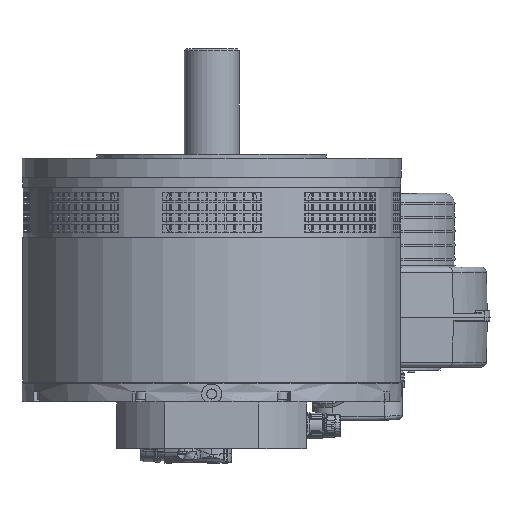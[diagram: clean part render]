
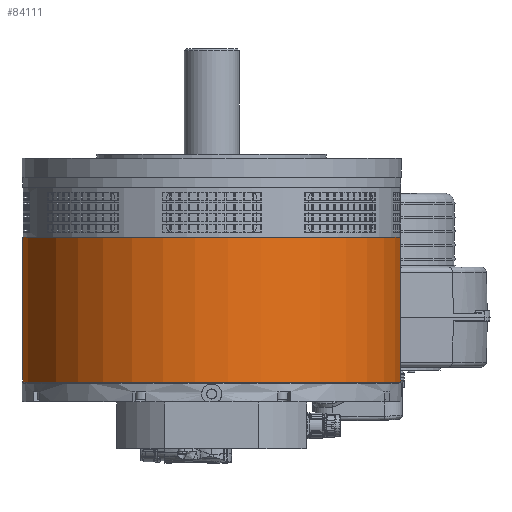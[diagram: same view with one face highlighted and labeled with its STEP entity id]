
A CAD part, front view. The second image highlights one B-rep face of the part: STEP entity #84111.
In plain terms, the highlighted cylindrical face has radius 190 mm (diameter 380 mm), a full revolution.
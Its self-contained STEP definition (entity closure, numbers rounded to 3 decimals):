
#2243=FACE_BOUND('',#14054,.T.);
#2244=FACE_BOUND('',#14055,.T.);
#2245=FACE_BOUND('',#14056,.T.);
#14054=EDGE_LOOP('',(#66591,#66592,#66593,#66594,#66595,#66596,#66597,#66598));
#14055=EDGE_LOOP('',(#66599));
#14056=EDGE_LOOP('',(#66600));
#16977=B_SPLINE_CURVE_WITH_KNOTS('',3,(#145223,#145224,#145225,#145226,
#145227,#145228,#145229,#145230,#145231,#145232),.UNSPECIFIED.,.F.,.F.,
(4,2,2,2,4),(0.762,0.956,1.15,1.338,
1.526),.UNSPECIFIED.);
#16994=B_SPLINE_CURVE_WITH_KNOTS('',3,(#145386,#145387,#145388,#145389,
#145390,#145391,#145392,#145393,#145394,#145395),.UNSPECIFIED.,.F.,.F.,
(4,2,2,2,4),(1.526,1.714,1.902,2.096,
2.29),.UNSPECIFIED.);
#16995=B_SPLINE_CURVE_WITH_KNOTS('',3,(#145401,#145402,#145403,#145404,
#145405,#145406,#145407,#145408,#145409,#145410),.UNSPECIFIED.,.F.,.F.,
(4,2,2,2,4),(-0.764,-0.57,-0.376,-0.188,
0.),.UNSPECIFIED.);
#16996=B_SPLINE_CURVE_WITH_KNOTS('',3,(#145417,#145418,#145419,#145420,
#145421,#145422,#145423,#145424,#145425,#145426),.UNSPECIFIED.,.F.,.F.,
(4,2,2,2,4),(0.,0.188,0.376,0.57,0.764),
 .UNSPECIFIED.);
#19953=LINE('',#145218,#25901);
#20018=LINE('',#145428,#25966);
#25901=VECTOR('',#109456,35.);
#25966=VECTOR('',#109587,35.);
#31994=CIRCLE('',#91667,190.);
#31995=CIRCLE('',#91695,190.);
#32023=CIRCLE('',#91760,190.);
#32024=CIRCLE('',#91762,190.);
#38412=VERTEX_POINT('',#145215);
#38413=VERTEX_POINT('',#145217);
#38414=VERTEX_POINT('',#145221);
#38415=VERTEX_POINT('',#145234);
#38418=VERTEX_POINT('',#145385);
#38419=VERTEX_POINT('',#145398);
#38420=VERTEX_POINT('',#145400);
#38421=VERTEX_POINT('',#145415);
#38450=VERTEX_POINT('',#145522);
#38451=VERTEX_POINT('',#145525);
#48373=EDGE_CURVE('',#38413,#38412,#19953,.T.);
#48376=EDGE_CURVE('',#38414,#38412,#16977,.T.);
#48378=EDGE_CURVE('',#38414,#38415,#31994,.T.);
#48452=EDGE_CURVE('',#38413,#38418,#16994,.T.);
#48455=EDGE_CURVE('',#38419,#38420,#16995,.T.);
#48457=EDGE_CURVE('',#38419,#38418,#31995,.T.);
#48459=EDGE_CURVE('',#38421,#38415,#16996,.T.);
#48460=EDGE_CURVE('',#38421,#38420,#20018,.T.);
#48491=EDGE_CURVE('',#38450,#38450,#32023,.T.);
#48492=EDGE_CURVE('',#38451,#38451,#32024,.T.);
#66591=ORIENTED_EDGE('',*,*,#48373,.T.);
#66592=ORIENTED_EDGE('',*,*,#48376,.F.);
#66593=ORIENTED_EDGE('',*,*,#48378,.T.);
#66594=ORIENTED_EDGE('',*,*,#48459,.F.);
#66595=ORIENTED_EDGE('',*,*,#48460,.T.);
#66596=ORIENTED_EDGE('',*,*,#48455,.F.);
#66597=ORIENTED_EDGE('',*,*,#48457,.T.);
#66598=ORIENTED_EDGE('',*,*,#48452,.F.);
#66599=ORIENTED_EDGE('',*,*,#48491,.T.);
#66600=ORIENTED_EDGE('',*,*,#48492,.F.);
#78269=CYLINDRICAL_SURFACE('',#91761,190.);
#84111=ADVANCED_FACE('',(#2243,#2244,#2245),#78269,.T.);
#91667=AXIS2_PLACEMENT_3D('',#145236,#109464,#109465);
#91695=AXIS2_PLACEMENT_3D('',#145413,#109580,#109581);
#91760=AXIS2_PLACEMENT_3D('',#145523,#109715,#109716);
#91761=AXIS2_PLACEMENT_3D('',#145524,#109717,#109718);
#91762=AXIS2_PLACEMENT_3D('',#145526,#109719,#109720);
#109456=DIRECTION('',(0.,0.,1.));
#109464=DIRECTION('center_axis',(0.,0.,1.));
#109465=DIRECTION('ref_axis',(0.707,0.707,0.));
#109580=DIRECTION('center_axis',(0.,0.,-1.));
#109581=DIRECTION('ref_axis',(0.707,0.707,0.));
#109587=DIRECTION('',(0.,0.,-1.));
#109715=DIRECTION('center_axis',(0.,0.,-1.));
#109716=DIRECTION('ref_axis',(0.707,-0.707,0.));
#109717=DIRECTION('center_axis',(0.,0.,-1.));
#109718=DIRECTION('ref_axis',(0.707,0.707,0.));
#109719=DIRECTION('center_axis',(0.,0.,-1.));
#109720=DIRECTION('ref_axis',(0.707,-0.707,0.));
#145215=CARTESIAN_POINT('',(163.409,96.941,-153.));
#145217=CARTESIAN_POINT('',(163.409,96.941,-188.));
#145218=CARTESIAN_POINT('',(163.409,96.941,-132.5));
#145221=CARTESIAN_POINT('',(160.725,101.328,-148.));
#145223=CARTESIAN_POINT('Ctrl Pts',(160.725,101.328,-148.));
#145224=CARTESIAN_POINT('Ctrl Pts',(161.07,100.782,-148.));
#145225=CARTESIAN_POINT('Ctrl Pts',(161.435,100.196,-148.126));
#145226=CARTESIAN_POINT('Ctrl Pts',(162.103,99.112,-148.642));
#145227=CARTESIAN_POINT('Ctrl Pts',(162.405,98.614,-149.031));
#145228=CARTESIAN_POINT('Ctrl Pts',(162.875,97.836,-149.923));
#145229=CARTESIAN_POINT('Ctrl Pts',(163.076,97.5,-150.481));
#145230=CARTESIAN_POINT('Ctrl Pts',(163.343,97.052,-151.705));
#145231=CARTESIAN_POINT('Ctrl Pts',(163.409,96.941,-152.373));
#145232=CARTESIAN_POINT('Ctrl Pts',(163.409,96.941,-153.));
#145234=CARTESIAN_POINT('',(101.328,160.725,-148.));
#145236=CARTESIAN_POINT('Origin',(0.,0.,-148.));
#145385=CARTESIAN_POINT('',(160.725,101.328,-193.));
#145386=CARTESIAN_POINT('Ctrl Pts',(163.409,96.941,-188.));
#145387=CARTESIAN_POINT('Ctrl Pts',(163.409,96.941,-188.627));
#145388=CARTESIAN_POINT('Ctrl Pts',(163.343,97.052,-189.295));
#145389=CARTESIAN_POINT('Ctrl Pts',(163.076,97.5,-190.519));
#145390=CARTESIAN_POINT('Ctrl Pts',(162.875,97.836,-191.077));
#145391=CARTESIAN_POINT('Ctrl Pts',(162.405,98.614,-191.969));
#145392=CARTESIAN_POINT('Ctrl Pts',(162.103,99.112,-192.358));
#145393=CARTESIAN_POINT('Ctrl Pts',(161.435,100.196,-192.874));
#145394=CARTESIAN_POINT('Ctrl Pts',(161.07,100.782,-193.));
#145395=CARTESIAN_POINT('Ctrl Pts',(160.725,101.328,-193.));
#145398=CARTESIAN_POINT('',(101.328,160.725,-193.));
#145400=CARTESIAN_POINT('',(96.941,163.409,-188.));
#145401=CARTESIAN_POINT('Ctrl Pts',(101.328,160.725,-193.));
#145402=CARTESIAN_POINT('Ctrl Pts',(100.782,161.07,-193.));
#145403=CARTESIAN_POINT('Ctrl Pts',(100.196,161.435,-192.874));
#145404=CARTESIAN_POINT('Ctrl Pts',(99.112,162.103,-192.358));
#145405=CARTESIAN_POINT('Ctrl Pts',(98.614,162.405,-191.969));
#145406=CARTESIAN_POINT('Ctrl Pts',(97.836,162.875,-191.077));
#145407=CARTESIAN_POINT('Ctrl Pts',(97.5,163.076,-190.519));
#145408=CARTESIAN_POINT('Ctrl Pts',(97.052,163.343,-189.295));
#145409=CARTESIAN_POINT('Ctrl Pts',(96.941,163.409,-188.627));
#145410=CARTESIAN_POINT('Ctrl Pts',(96.941,163.409,-188.));
#145413=CARTESIAN_POINT('Origin',(0.,0.,-193.));
#145415=CARTESIAN_POINT('',(96.941,163.409,-153.));
#145417=CARTESIAN_POINT('Ctrl Pts',(96.941,163.409,-153.));
#145418=CARTESIAN_POINT('Ctrl Pts',(96.941,163.409,-152.373));
#145419=CARTESIAN_POINT('Ctrl Pts',(97.052,163.343,-151.705));
#145420=CARTESIAN_POINT('Ctrl Pts',(97.5,163.076,-150.481));
#145421=CARTESIAN_POINT('Ctrl Pts',(97.836,162.875,-149.923));
#145422=CARTESIAN_POINT('Ctrl Pts',(98.614,162.405,-149.031));
#145423=CARTESIAN_POINT('Ctrl Pts',(99.112,162.103,-148.642));
#145424=CARTESIAN_POINT('Ctrl Pts',(100.196,161.435,-148.126));
#145425=CARTESIAN_POINT('Ctrl Pts',(100.782,161.07,-148.));
#145426=CARTESIAN_POINT('Ctrl Pts',(101.328,160.725,-148.));
#145428=CARTESIAN_POINT('',(96.941,163.409,-132.5));
#145522=CARTESIAN_POINT('',(134.35,134.35,-60.));
#145523=CARTESIAN_POINT('Origin',(0.,0.,-60.));
#145524=CARTESIAN_POINT('Origin',(0.,0.,-132.5));
#145525=CARTESIAN_POINT('',(134.35,134.35,-205.));
#145526=CARTESIAN_POINT('Origin',(0.,0.,-205.));
